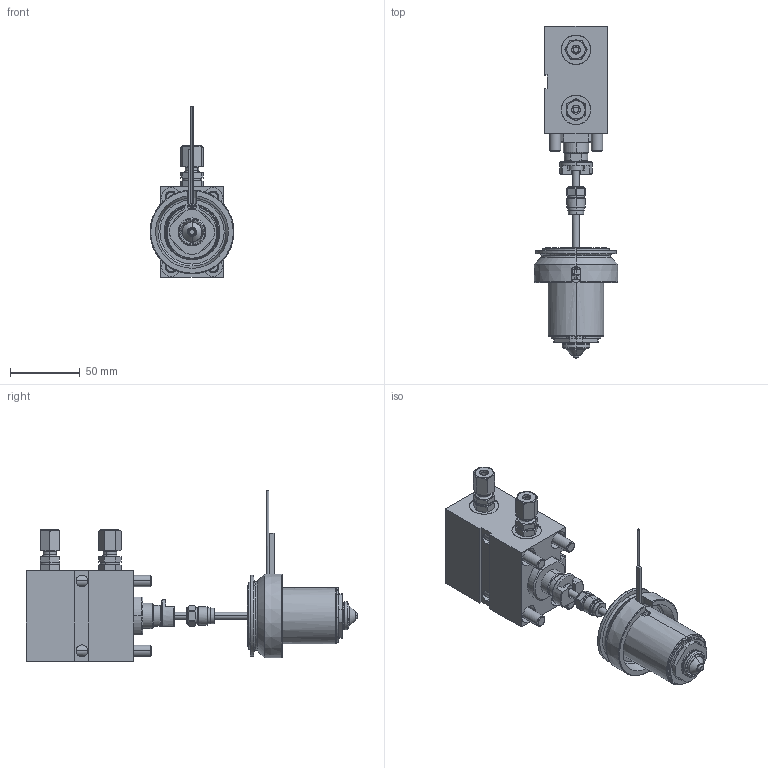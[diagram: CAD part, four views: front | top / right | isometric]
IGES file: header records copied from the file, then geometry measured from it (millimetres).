
Start section: Write IGES format                                    datakit 2008 (c)
Global section: file name: Unknown; native system: DATAKIT Converter; preprocessor: Unknown; author: Unknown; organization: Unknown; date: 950613.180003; units: millimetre
Bounding box: 60 x 237.5 x 122.15 mm (x, y, z)
Surface area: 126604.1 mm2 (no closed solid volume)
Topology: 0 solids, 0 shells, 787 faces, 3548 edges, 3530 vertices
Faces by surface type: revolution 508, bspline 279
